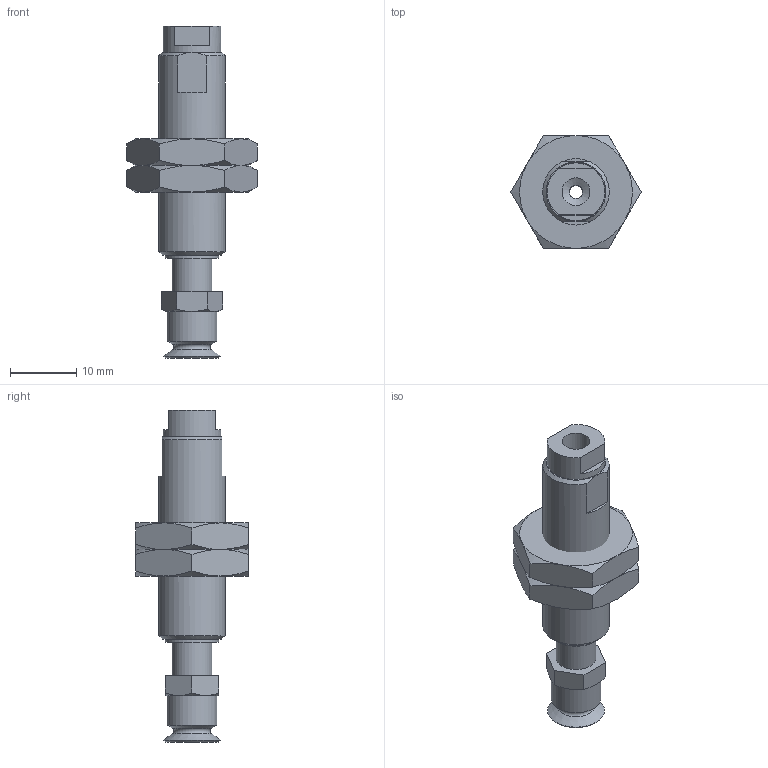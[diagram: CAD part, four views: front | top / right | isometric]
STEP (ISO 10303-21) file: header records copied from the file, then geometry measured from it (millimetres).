
FILE_DESCRIPTION(('STEP AP203'),'1');
FILE_NAME('-LB.stp','2025-04-10T08:04:17',(' '),(' '),'Spatial InterOp 3D',' ',' ');
FILE_SCHEMA(('CONFIG_CONTROL_DESIGN'));
Length unit declared in the file: millimetre
Products named in the file (8): BNABPFTH-8A-5-※-LB; __; BODY; NUT; TN-PS-10-M5; Setting screws-TN-PS-10-M5; BPFG-8A-※
Assembly tree (7 placements, depth 3):
  BNABPFTH-8A-5-※-LB
    __
    BODY
    NUT
    NUT
    TN-PS-10-M5
      Setting screws-TN-PS-10-M5
    BPFG-8A-※
Bounding box: 19.63 x 17 x 50 mm (x, y, z)
Volume: 4430 mm3; surface area: 3896.7 mm2
Topology: 6 solids, 6 shells, 126 faces, 267 edges, 160 vertices
Faces by surface type: plane 57, cone 41, cylinder 18, torus 9, bspline 1
Full cylindrical faces by diameter (mm): 2 x3, 3.9 x1, 4 x2, 4.2 x2, 5 x1, 6 x3, 7.5 x1, 8 x1, 8.7 x1, 9 x2, 10 x1
Entity records: 3637 total; most frequent: CARTESIAN_POINT 768, DIRECTION 522, ORIENTED_EDGE 444, AXIS2_PLACEMENT_3D 230, EDGE_CURVE 222, EDGE_LOOP 182, FACE_OUTER_BOUND 154, VERTEX_POINT 152
